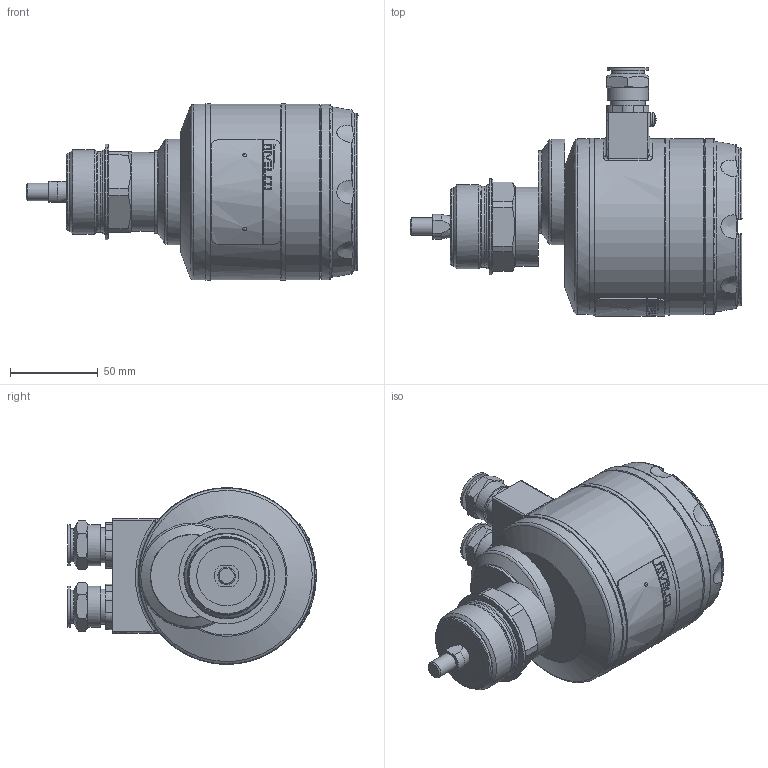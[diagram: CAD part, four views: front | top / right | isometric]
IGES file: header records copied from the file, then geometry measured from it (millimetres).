
Global section: file name: HT_Xház_1 col,; native system: Autodesk Inventor 2015; preprocessor: unknown; author: aantal; date: 20150713.100128; units: millimetre
Bounding box: 189.02 x 141.5 x 100.56 mm (x, y, z)
Volume: 923250.6 mm3; surface area: 90739.1 mm2
Topology: 10 solids, 10 shells, 407 faces, 1005 edges, 650 vertices
Faces by surface type: bspline 407
